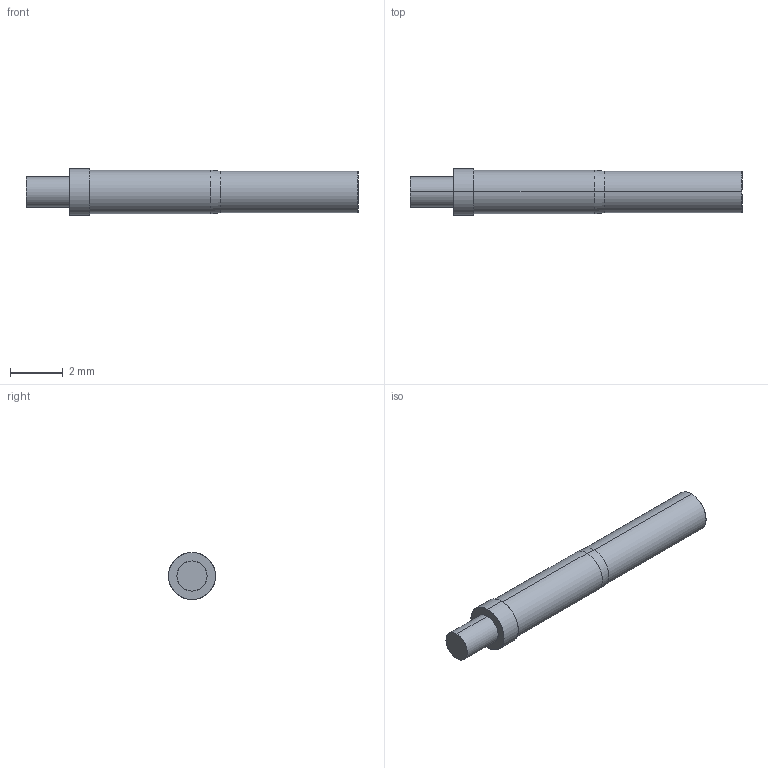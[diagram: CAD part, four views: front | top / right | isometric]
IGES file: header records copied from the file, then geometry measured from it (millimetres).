
Start section: SolidWorks IGES file using analytic representation for surfaces
Global section: file name: O:\PYLON\IGES FILES\E-S\E-S-F.IGS; native system: SolidWorks 2015; preprocessor: SolidWorks 2015; author: kgolden; date: 171024.083227; units: inch
Bounding box: 12.57 x 1.78 x 1.78 mm (x, y, z)
Surface area: 75.7 mm2 (no closed solid volume)
Topology: 0 solids, 0 shells, 17 faces, 208 edges, 208 vertices
Faces by surface type: revolution 12, bspline 5
